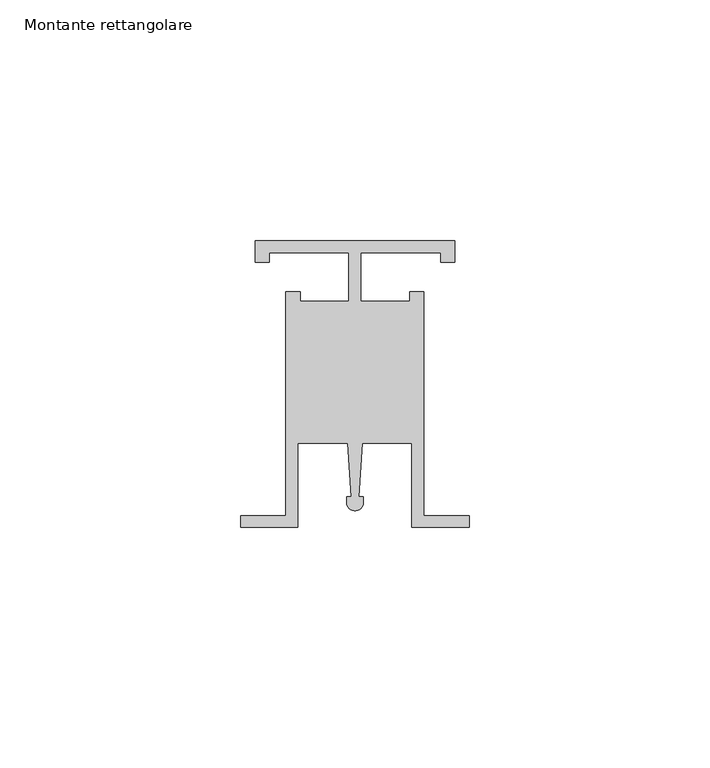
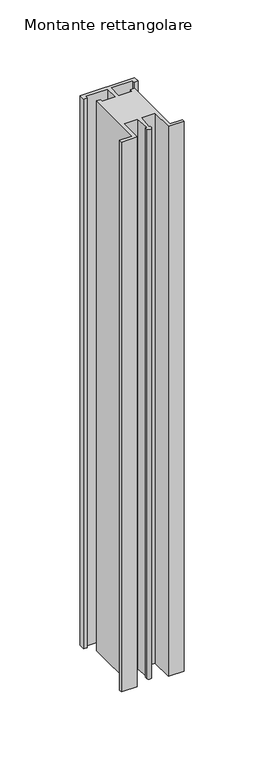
"""IFC4 building model written with IfcOpenShell, lengths in millimetres: member geometry, Montante rettangolare : Verde Profilo's Uprights."""

from ifc_helpers import new_model, si_unit, point, frame, frame_2d, origin, place, context, project, spatial, polyline, circle_curve, trimmed, segment, composite_curve, outline, extrude, source, transform, mapped, element, save


def montante_rettangolare_19d1f5be(model_context):
    return source(origin(), model_context, "Body", "SweptSolid", [
        extrude(outline(composite_curve([segment(polyline([(-3.0, 0.0), (-3.0, -4.4643434), (-5.9763281, -4.4643434), (-5.9763281, -2.4801246), (-22.5192241, -2.4801246), (-22.5192241, -12.5992217), (-12.4008018, -12.5992217), (-12.4008018, -10.6150029), (-9.4244736, -10.6150029), (-9.4244736, -57.1992491), (0.0, -57.1992491), (0.0, -59.5229914), (-11.9045983, -59.5229914), (-11.9045983, -42.1200913), (-22.2878429, -42.1200913), (-23.0155567, -53.2310496), (-22.0219337, -53.2310496), (-22.0219337, -54.4070013)]), True, "CONTINUOUS"), segment(trimmed(circle_curve(frame_2d((-23.7595941, -54.4070013)), 1.7376604), [point((-22.0219337, -54.4070013))], [point((-25.4972545, -54.4070013))], False, "CARTESIAN"), True, "CONTINUOUS"), segment(polyline([(-25.4972545, -54.4070013), (-25.4972545, -53.2310496), (-24.5036314, -53.2310496), (-25.2313452, -42.1200913), (-35.6145898, -42.1200913), (-35.6145898, -59.5229914), (-47.5191881, -59.5229914), (-47.5191881, -57.1992491), (-38.0947145, -57.1992491), (-38.0947145, -10.6150029), (-35.1183863, -10.6150029), (-35.1183863, -12.5992217), (-24.999964, -12.5992217), (-24.999964, -2.4801246), (-41.54286, -2.4801246), (-41.54286, -4.4643434), (-44.5191881, -4.4643434), (-44.5191881, 0.0), (-3.0, 0.0)]), True, "CONTINUOUS")], self_intersect=False)), frame((0.0, 0.0, -440.3770182), z_axis=(0.0, 0.0, 1.0), x_axis=(1.0, 0.0, 0.0)), (0.0, 0.0, 1.0), 440.3770182),
    ])


if __name__ == "__main__":
    model = new_model("IFC4")
    model_context = context("Model", 3, world=origin())
    ifc_project = project(units=[si_unit("LENGTHUNIT", "METRE", prefix="MILLI")], contexts=[model_context])
    site = spatial("IfcSite", under=ifc_project)
    building = spatial("IfcBuilding", under=site)
    placement = place(None, origin())
    montante_rettangolare_shape = montante_rettangolare_19d1f5be(model_context)
    element("IfcMember", 1, ObjectType="Montante rettangolare : Verde Profilo's Uprights", at=placement, inside=building, context=model_context, shape_type="MappedRepresentation", body=[
        mapped(montante_rettangolare_shape, transform((0.0, 0.0, 0.0), x_axis=(1.0, 0.0, 0.0), y_axis=(0.0, 1.0, 0.0), z_axis=(0.0, 0.0, 1.0))),
    ])
    save(model, "model.ifc")
